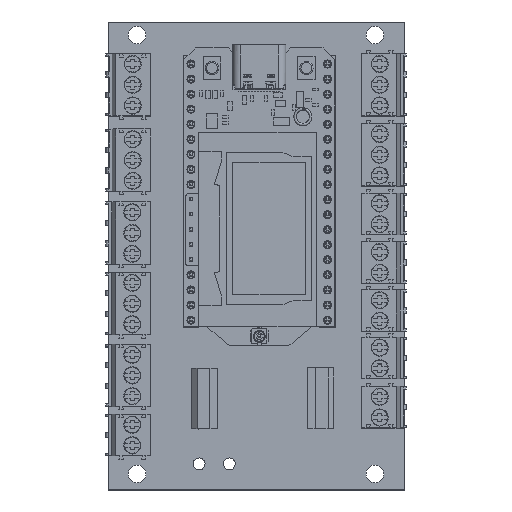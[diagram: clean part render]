
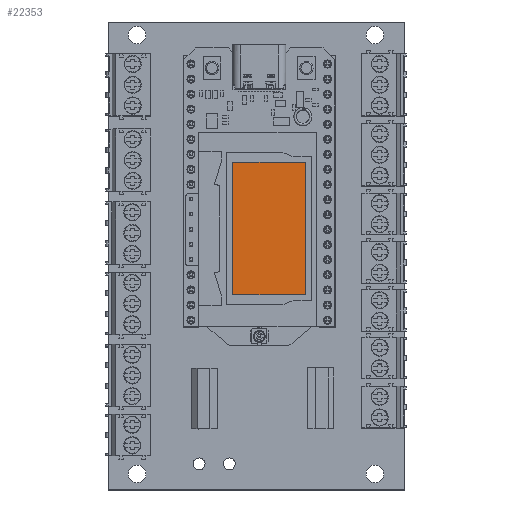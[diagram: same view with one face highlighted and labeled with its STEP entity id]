
A CAD part, top view. The second image highlights one B-rep face of the part: STEP entity #22353.
In plain terms, the highlighted planar face has unit normal (0, 0, 1) as drawn and (0, 1, 0) by its records, which use the part's own axes.
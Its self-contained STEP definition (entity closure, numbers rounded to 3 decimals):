
#22221 = EDGE_CURVE('',#22222,#22224,#22226,.T.);
#22222 = VERTEX_POINT('',#22223);
#22223 = CARTESIAN_POINT('',(7.75,4.8,16.5));
#22224 = VERTEX_POINT('',#22225);
#22225 = CARTESIAN_POINT('',(7.75,4.8,-5.8));
#22226 = LINE('',#22227,#22228);
#22227 = CARTESIAN_POINT('',(7.75,4.8,16.5));
#22228 = VECTOR('',#22229,1.);
#22229 = DIRECTION('',(0.,0.,-1.));
#22261 = EDGE_CURVE('',#22262,#22222,#22264,.T.);
#22262 = VERTEX_POINT('',#22263);
#22263 = CARTESIAN_POINT('',(-4.45,4.8,16.5));
#22264 = LINE('',#22265,#22266);
#22265 = CARTESIAN_POINT('',(-4.45,4.8,16.5));
#22266 = VECTOR('',#22267,1.);
#22267 = DIRECTION('',(1.,0.,0.));
#22292 = EDGE_CURVE('',#22293,#22262,#22295,.T.);
#22293 = VERTEX_POINT('',#22294);
#22294 = CARTESIAN_POINT('',(-4.45,4.8,-5.8));
#22295 = LINE('',#22296,#22297);
#22296 = CARTESIAN_POINT('',(-4.45,4.8,16.5));
#22297 = VECTOR('',#22298,1.);
#22298 = DIRECTION('',(-0.,-0.,1.));
#22323 = EDGE_CURVE('',#22224,#22293,#22324,.T.);
#22324 = LINE('',#22325,#22326);
#22325 = CARTESIAN_POINT('',(-4.45,4.8,-5.8));
#22326 = VECTOR('',#22327,1.);
#22327 = DIRECTION('',(-1.,-0.,-0.));
#22353 = ADVANCED_FACE('',(#22354),#22360,.F.);
#22354 = FACE_BOUND('',#22355,.T.);
#22355 = EDGE_LOOP('',(#22356,#22357,#22358,#22359));
#22356 = ORIENTED_EDGE('',*,*,#22221,.T.);
#22357 = ORIENTED_EDGE('',*,*,#22323,.T.);
#22358 = ORIENTED_EDGE('',*,*,#22292,.T.);
#22359 = ORIENTED_EDGE('',*,*,#22261,.T.);
#22360 = PLANE('',#22361);
#22361 = AXIS2_PLACEMENT_3D('',#22362,#22363,#22364);
#22362 = CARTESIAN_POINT('',(0.,4.8,0.));
#22363 = DIRECTION('',(0.,-1.,0.));
#22364 = DIRECTION('',(0.,-0.,-1.));
